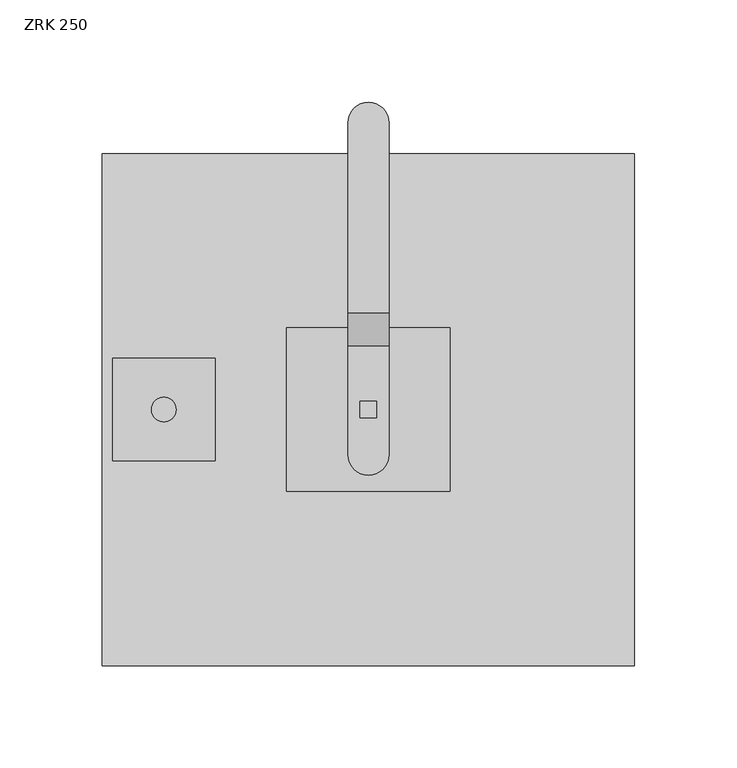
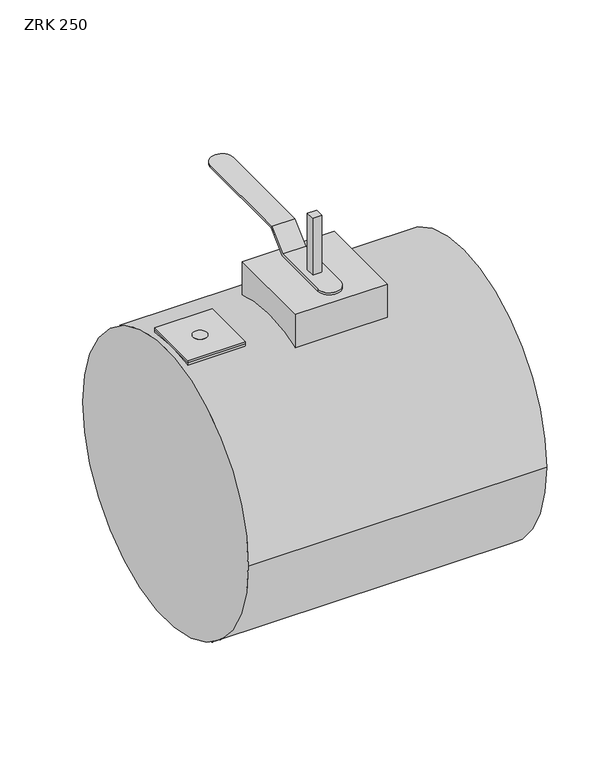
"""IFC4 building model written with IfcOpenShell, lengths in millimetres: damper geometry, KORF_Заслонка_Круглая_ZRK_Ручка : ZRK 250."""

from ifc_helpers import new_model, si_unit, point, frame, frame_2d, origin, origin_2d, place, context, project, spatial, polyline, circle_curve, trimmed, segment, composite_curve, outline, extrude, source, transform, mapped, element, save
from ifc_brep_helpers import plane_surface, cylinder_surface, revolved_surface, advanced_brep


def zrk_250_d0fe852c(model_context):
    return source(origin(), model_context, "Body", "SolidModel", [
        extrude(outline(composite_curve([segment(trimmed(circle_curve(frame_2d((30.0, 0.0)), 6.0), [point((36.0, 0.0))], [point((24.0, 0.0))], False, "CARTESIAN"), True, "CONTINUOUS"), segment(trimmed(circle_curve(frame_2d((30.0, 0.0)), 6.0), [point((24.0, 0.0))], [point((36.0, 0.0))], False, "CARTESIAN"), True, "CONTINUOUS")], self_intersect=False)), frame((0.0, 0.0, 125.0), z_axis=(0.0, 0.0, 1.0), x_axis=(1.0, 0.0, 0.0)), (0.0, 0.0, 1.0), 2.0),
        extrude(outline(polyline([(55.0, 25.0), (55.0, -25.0), (5.0, -25.0), (5.0, 25.0), (55.0, 25.0)]), holes=[composite_curve([segment(trimmed(circle_curve(frame_2d((30.0, 0.0)), 6.0), [point((24.0, 0.0))], [point((36.0, 0.0))], True, "CARTESIAN"), True, "CONTINUOUS"), segment(trimmed(circle_curve(frame_2d((30.0, 0.0)), 6.0), [point((36.0, 0.0))], [point((24.0, 0.0))], True, "CARTESIAN"), True, "CONTINUOUS")], self_intersect=False)]), frame((0.0, 0.0, 125.0), z_axis=(0.0, 0.0, 1.0), x_axis=(1.0, 0.0, 0.0)), (0.0, 0.0, 1.0), 2.0),
        extrude(outline(composite_curve([segment(trimmed(circle_curve(origin_2d(), 125.0), [point((-125.0, 0.0))], [point((125.0, 0.0))], False, "CARTESIAN"), True, "CONTINUOUS"), segment(trimmed(circle_curve(origin_2d(), 125.0), [point((125.0, 0.0))], [point((-125.0, 0.0))], False, "CARTESIAN"), True, "CONTINUOUS")], self_intersect=False)), frame((0.0, 0.0, 0.0), z_axis=(1.0, 0.0, 0.0), x_axis=(0.0, 1.0, 0.0)), (0.0, 0.0, 1.0), 260.0),
        advanced_brep(
        [(55.0, 25.0, 125.0), (5.0, 25.0, 125.0), (5.0, 0.0, 125.0), (5.0, -25.0, 125.0), (55.0, -25.0, 125.0), (55.0, 0.0, 125.0), (55.0, 25.0, 122.4744871), (5.0, 25.0, 122.4744871), (5.0, -25.0, 122.4744871), (55.0, -25.0, 122.4744871)],
        [
            (0, 1),
            (1, 2),
            (2, 3),
            (3, 4),
            (4, 5),
            (5, 0),
            (0, 6),
            (6, 7),
            (7, 1),
            (7, 2, circle_curve(frame((5.0, 0.0, 0.0), z_axis=(1.0, 0.0, 0.0), x_axis=(0.0, 0.0, -1.0)), 125.0)),
            (2, 8, circle_curve(frame((5.0, 0.0, 0.0), z_axis=(1.0, 0.0, 0.0), x_axis=(0.0, 0.0, -1.0)), 125.0)),
            (8, 3),
            (8, 9),
            (9, 4),
            (9, 5, circle_curve(frame((55.0, 0.0, 0.0), z_axis=(-1.0, 0.0, 0.0), x_axis=(0.0, 0.0, -1.0)), 125.0)),
            (5, 6, circle_curve(frame((55.0, 0.0, 0.0), z_axis=(-1.0, 0.0, 0.0), x_axis=(0.0, 0.0, -1.0)), 125.0)),
        ],
        [
            plane_surface(frame((5.0, 25.0, 125.0), z_axis=(0.0, 0.0, 1.0), x_axis=(-1.0, 0.0, 0.0))),
            plane_surface(frame((55.0, 25.0, 125.0), z_axis=(0.0, 1.0, 0.0), x_axis=(0.0, 0.0, -1.0))),
            plane_surface(frame((5.0, 25.0, 125.0), z_axis=(-1.0, 0.0, 0.0), x_axis=(0.0, 0.0, -1.0))),
            plane_surface(frame((5.0, -25.0, 125.0), z_axis=(0.0, -1.0, 0.0), x_axis=(0.0, 0.0, -1.0))),
            plane_surface(frame((55.0, -25.0, 125.0), z_axis=(1.0, 0.0, 0.0), x_axis=(0.0, 0.0, -1.0))),
            revolved_surface(polyline([(5.0, 0.0, -125.0), (55.0, 0.0, -125.0)]), (260.0, 0.0, 0.0), (-1.0, 0.0, 0.0)),
        ],
        [
            (0, [[1, 2, 3, 4, 5, 6]]),
            (1, [[-1, 7, 8, 9]]),
            (2, [[-2, -9, 10]]),
            (2, [[-3, 11, 12]]),
            (3, [[-4, -12, 13, 14]]),
            (4, [[-5, -14, 15]]),
            (4, [[-6, 16, -7]]),
            (5, [[-8, -16, -15, -13, -11, -10]]),
        ],
    ),
        extrude(outline(composite_curve([segment(polyline([(-4.0, 203.0), (4.0, 203.0), (4.0, 124.9359836)]), True, "CONTINUOUS"), segment(trimmed(circle_curve(origin_2d(), 125.0), [point((4.0, 124.9359836))], [point((-4.0, 124.9359836))], True, "CARTESIAN"), True, "CONTINUOUS"), segment(polyline([(-4.0, 124.9359836), (-4.0, 203.0)]), True, "CONTINUOUS")], self_intersect=False)), frame((126.0, 0.0, 0.0), z_axis=(1.0, 0.0, 0.0), x_axis=(0.0, 1.0, 0.0)), (0.0, 0.0, 1.0), 8.0),
        advanced_brep(
        [(120.0, 48.0, 165.0), (120.0, 32.0, 149.0), (120.0, -22.0, 149.0), (120.0, -22.0, 151.0), (120.0, 31.1715729, 151.0), (120.0, 47.1715729, 167.0), (120.0, 140.0, 167.0), (120.0, 140.0, 165.0), (140.0, 47.1715729, 167.0), (140.0, 31.1715729, 151.0), (140.0, -22.0, 151.0), (140.0, -22.0, 149.0), (140.0, 32.0, 149.0), (140.0, 48.0, 165.0), (140.0, 140.0, 165.0), (140.0, 140.0, 167.0), (130.0, 150.0, 165.0), (130.0, 150.0, 167.0), (130.0, -32.0, 151.0), (126.0, 4.0, 151.0), (134.0, 4.0, 151.0), (134.0, -4.0, 151.0), (126.0, -4.0, 151.0), (130.0, -32.0, 149.0), (134.0, 4.0, 149.0), (126.0, 4.0, 149.0), (126.0, -4.0, 149.0), (134.0, -4.0, 149.0)],
        [
            (0, 1),
            (1, 2),
            (2, 3),
            (3, 4),
            (4, 5),
            (5, 6),
            (6, 7),
            (7, 0),
            (8, 9),
            (9, 10),
            (10, 11),
            (11, 12),
            (12, 13),
            (13, 14),
            (14, 15),
            (15, 8),
            (13, 0),
            (7, 16, circle_curve(frame((130.0, 140.0, 165.0), z_axis=(0.0, 0.0, -1.0), x_axis=(1.0, 0.0, 0.0)), 10.0)),
            (16, 14, circle_curve(frame((130.0, 140.0, 165.0), z_axis=(0.0, 0.0, -1.0), x_axis=(1.0, 0.0, 0.0)), 10.0)),
            (5, 8),
            (15, 17, circle_curve(frame((130.0, 140.0, 167.0), z_axis=(0.0, 0.0, 1.0), x_axis=(1.0, 0.0, 0.0)), 10.0)),
            (17, 6, circle_curve(frame((130.0, 140.0, 167.0), z_axis=(0.0, 0.0, 1.0), x_axis=(1.0, 0.0, 0.0)), 10.0)),
            (4, 9),
            (3, 18, circle_curve(frame((130.0, -22.0, 151.0), z_axis=(0.0, 0.0, 1.0), x_axis=(1.0, 0.0, 0.0)), 10.0)),
            (18, 10, circle_curve(frame((130.0, -22.0, 151.0), z_axis=(0.0, 0.0, 1.0), x_axis=(1.0, 0.0, 0.0)), 10.0)),
            (19, 20),
            (20, 21),
            (21, 22),
            (22, 19),
            (1, 12),
            (11, 23, circle_curve(frame((130.0, -22.0, 149.0), z_axis=(0.0, 0.0, -1.0), x_axis=(1.0, 0.0, 0.0)), 10.0)),
            (23, 2, circle_curve(frame((130.0, -22.0, 149.0), z_axis=(0.0, 0.0, -1.0), x_axis=(1.0, 0.0, 0.0)), 10.0)),
            (24, 25),
            (25, 26),
            (26, 27),
            (27, 24),
            (24, 20),
            (19, 25),
            (22, 26),
            (21, 27),
        ],
        [
            plane_surface(frame((120.0, 150.0, 165.0), z_axis=(-1.0, 0.0, 0.0), x_axis=(0.0, -1.0, 0.0))),
            plane_surface(frame((140.0, 150.0, 165.0), z_axis=(1.0, 0.0, 0.0), x_axis=(0.0, 1.0, 0.0))),
            plane_surface(frame((140.0, 48.0, 165.0), z_axis=(0.0, 0.0, -1.0), x_axis=(-1.0, 0.0, 0.0))),
            plane_surface(frame((140.0, 150.0, 167.0), z_axis=(0.0, 0.0, 1.0), x_axis=(-1.0, 0.0, 0.0))),
            plane_surface(frame((140.0, 47.1715729, 167.0), z_axis=(0.0, -0.7071067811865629, 0.7071067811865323), x_axis=(-1.0, 0.0, 0.0))),
            plane_surface(frame((140.0, 31.1715729, 151.0), z_axis=(0.0, 0.0, 1.0), x_axis=(-1.0, 0.0, 0.0))),
            plane_surface(frame((140.0, -32.0, 149.0), z_axis=(0.0, 0.0, -1.0), x_axis=(-1.0, 0.0, 0.0))),
            plane_surface(frame((140.0, 32.0, 149.0), z_axis=(0.0, 0.7071067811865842, -0.7071067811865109), x_axis=(-1.0, 0.0, 0.0))),
            plane_surface(frame((134.0, 4.0, 165.0), z_axis=(0.0, -1.0, 0.0), x_axis=(0.0, 0.0, -1.0))),
            plane_surface(frame((126.0, 4.0, 165.0), z_axis=(1.0, 0.0, 0.0), x_axis=(0.0, 0.0, -1.0))),
            plane_surface(frame((126.0, -4.0, 165.0), z_axis=(0.0, 1.0, 0.0), x_axis=(0.0, 0.0, -1.0))),
            plane_surface(frame((134.0, -4.0, 165.0), z_axis=(-1.0, 0.0, 0.0), x_axis=(0.0, 0.0, -1.0))),
            cylinder_surface(frame((130.0, 140.0, 149.0), z_axis=(0.0, 0.0, -1.0), x_axis=(1.0, 0.0, 0.0)), 10.0),
            cylinder_surface(frame((130.0, -22.0, 0.0), z_axis=(0.0, 0.0, -1.0), x_axis=(1.0, 0.0, 0.0)), 10.0),
        ],
        [
            (0, [[1, 2, 3, 4, 5, 6, 7, 8]]),
            (1, [[9, 10, 11, 12, 13, 14, 15, 16]]),
            (2, [[17, -8, 18, 19, -14]]),
            (3, [[20, -16, 21, 22, -6]]),
            (4, [[-5, 23, -9, -20]]),
            (5, [[-23, -4, 24, 25, -10], [26, 27, 28, 29]]),
            (6, [[30, -12, 31, 32, -2], [33, 34, 35, 36]]),
            (7, [[-1, -17, -13, -30]]),
            (8, [[37, -26, 38, -33]]),
            (9, [[-38, -29, 39, -34]]),
            (10, [[-39, -28, 40, -35]]),
            (11, [[-37, -36, -40, -27]]),
            (12, [[-7, -22, -21, -15, -19, -18]]),
            (13, [[-3, -32, -31, -11, -25, -24]]),
        ],
    ),
        advanced_brep(
        [(170.0, 40.0, 149.0), (90.0, 40.0, 149.0), (90.0, -40.0, 149.0), (170.0, -40.0, 149.0), (126.0, 4.0, 149.0), (134.0, 4.0, 149.0), (134.0, -4.0, 149.0), (126.0, -4.0, 149.0), (170.0, 40.0, 118.4271928), (90.0, 40.0, 118.4271928), (90.0, -40.0, 118.4271928), (170.0, -40.0, 118.4271928), (134.0, 4.0, 124.9359836), (126.0, 4.0, 124.9359836), (126.0, -4.0, 124.9359836), (134.0, -4.0, 124.9359836)],
        [
            (0, 1),
            (1, 2),
            (2, 3),
            (3, 0),
            (4, 5),
            (5, 6),
            (6, 7),
            (7, 4),
            (0, 8),
            (8, 9),
            (9, 1),
            (9, 10, circle_curve(frame((90.0, 0.0, 0.0), z_axis=(1.0, 0.0, 0.0), x_axis=(0.0, 0.0, -1.0)), 125.0)),
            (10, 2),
            (10, 11),
            (11, 3),
            (11, 8, circle_curve(frame((170.0, 0.0, 0.0), z_axis=(-1.0, 0.0, 0.0), x_axis=(0.0, 0.0, -1.0)), 125.0)),
            (12, 13),
            (13, 14, circle_curve(frame((126.0, 0.0, 0.0), z_axis=(1.0, 0.0, 0.0), x_axis=(0.0, 0.0, -1.0)), 125.0)),
            (14, 15),
            (15, 12, circle_curve(frame((134.0, 0.0, 0.0), z_axis=(-1.0, 0.0, 0.0), x_axis=(0.0, 0.0, -1.0)), 125.0)),
            (12, 5),
            (4, 13),
            (7, 14),
            (6, 15),
        ],
        [
            plane_surface(frame((90.0, 40.0, 149.0), z_axis=(0.0, 0.0, 1.0), x_axis=(-1.0, 0.0, 0.0))),
            plane_surface(frame((170.0, 40.0, 149.0), z_axis=(0.0, 1.0, 0.0), x_axis=(0.0, 0.0, -1.0))),
            plane_surface(frame((90.0, 40.0, 149.0), z_axis=(-1.0, 0.0, 0.0), x_axis=(0.0, 0.0, -1.0))),
            plane_surface(frame((90.0, -40.0, 149.0), z_axis=(0.0, -1.0, 0.0), x_axis=(0.0, 0.0, -1.0))),
            plane_surface(frame((170.0, -40.0, 149.0), z_axis=(1.0, 0.0, 0.0), x_axis=(0.0, 0.0, -1.0))),
            revolved_surface(polyline([(90.0, 0.0, -125.0), (170.0, 0.0, -125.0)]), (260.0, 0.0, 0.0), (-1.0, 0.0, 0.0)),
            plane_surface(frame((134.0, 4.0, 165.0), z_axis=(0.0, -1.0, 0.0), x_axis=(0.0, 0.0, -1.0))),
            plane_surface(frame((126.0, 4.0, 165.0), z_axis=(1.0, 0.0, 0.0), x_axis=(0.0, 0.0, -1.0))),
            plane_surface(frame((126.0, -4.0, 165.0), z_axis=(0.0, 1.0, 0.0), x_axis=(0.0, 0.0, -1.0))),
            plane_surface(frame((134.0, -4.0, 165.0), z_axis=(-1.0, 0.0, 0.0), x_axis=(0.0, 0.0, -1.0))),
        ],
        [
            (0, [[1, 2, 3, 4], [5, 6, 7, 8]]),
            (1, [[-1, 9, 10, 11]]),
            (2, [[-2, -11, 12, 13]]),
            (3, [[-3, -13, 14, 15]]),
            (4, [[-4, -15, 16, -9]]),
            (5, [[-10, -16, -14, -12], [17, 18, 19, 20]]),
            (6, [[21, -5, 22, -17]]),
            (7, [[-22, -8, 23, -18]]),
            (8, [[-23, -7, 24, -19]]),
            (9, [[-21, -20, -24, -6]]),
        ],
    ),
    ])


if __name__ == "__main__":
    model = new_model("IFC4")
    model_context = context("Model", 3, world=origin())
    ifc_project = project(units=[si_unit("LENGTHUNIT", "METRE", prefix="MILLI")], contexts=[model_context])
    site = spatial("IfcSite", under=ifc_project)
    building = spatial("IfcBuilding", under=site)
    placement = place(None, origin())
    zrk_250_shape = zrk_250_d0fe852c(model_context)
    element("IfcDamper", 1, ObjectType="KORF_Заслонка_Круглая_ZRK_Ручка : ZRK 250", at=placement, inside=building, context=model_context, shape_type="MappedRepresentation", body=[
        mapped(zrk_250_shape, transform((0.0, 0.0, 0.0), x_axis=(1.0, 0.0, 0.0), y_axis=(0.0, 1.0, 0.0), z_axis=(0.0, 0.0, 1.0))),
    ])
    save(model, "model.ifc")
